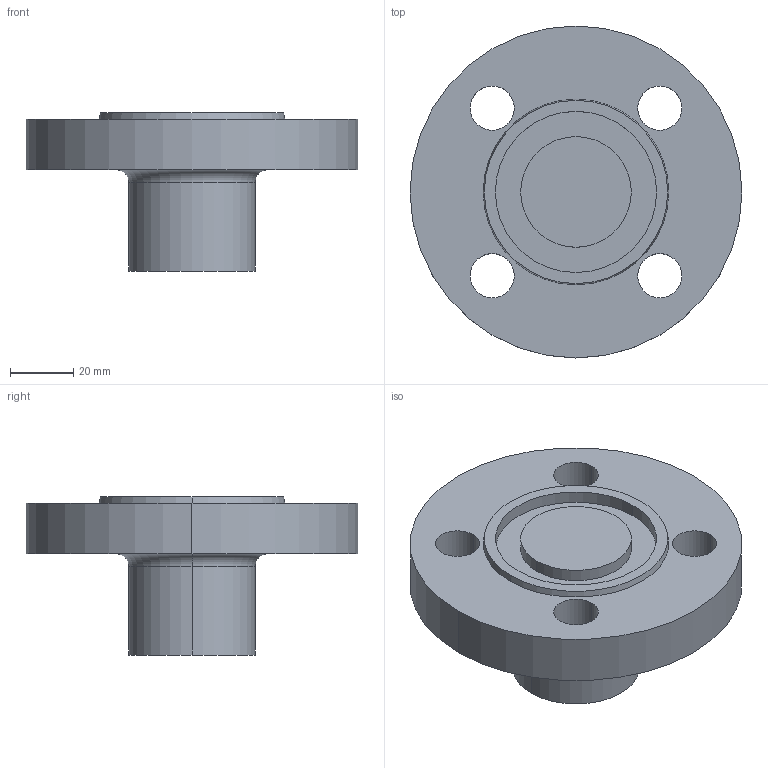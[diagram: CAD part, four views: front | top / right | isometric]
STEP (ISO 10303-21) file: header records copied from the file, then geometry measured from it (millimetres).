
FILE_DESCRIPTION (( 'STEP AP214' ), '1' );
FILE_NAME ('PN40 DN20 Type 21(i) - Type D Face.STEP', '2018-12-29T16:22:30', ( '' ), ( '' ), 'SwSTEP 2.0', 'SolidWorks 2019', '' );
FILE_SCHEMA (( 'AUTOMOTIVE_DESIGN' ));
Length unit declared in the file: millimetre
Products named in the file (1): PN40 DN20 Type 21(i) - Type D Face
Bounding box: 105 x 105 x 50 mm (x, y, z)
Volume: 170381.2 mm3; surface area: 29380.2 mm2
Topology: 1 solids, 1 shells, 26 faces, 58 edges, 38 vertices
Faces by surface type: cylinder 16, plane 6, torus 2, cone 2
Entity records: 796 total; most frequent: DIRECTION 152, CARTESIAN_POINT 123, ORIENTED_EDGE 116, AXIS2_PLACEMENT_3D 67, EDGE_CURVE 58, CIRCLE 40, VERTEX_POINT 38, EDGE_LOOP 38
